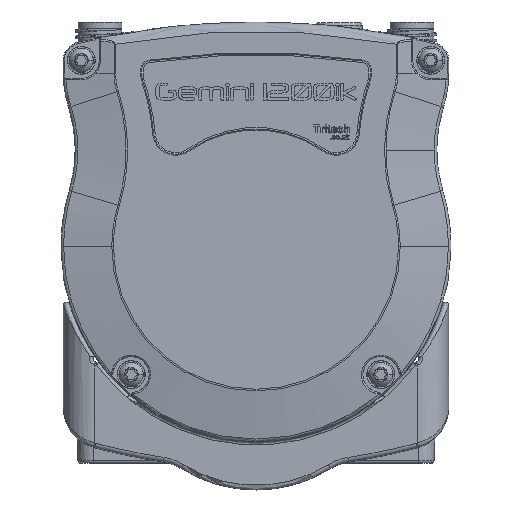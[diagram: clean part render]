
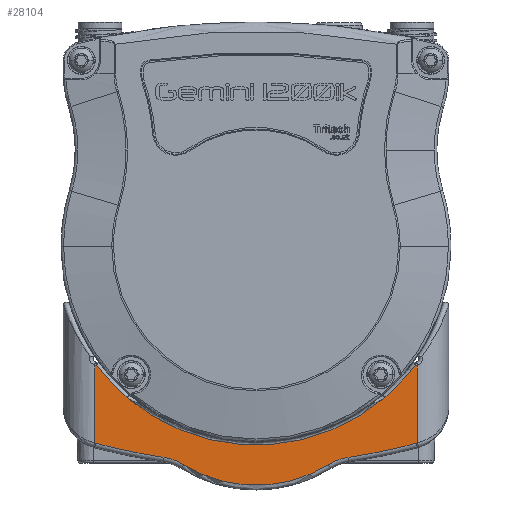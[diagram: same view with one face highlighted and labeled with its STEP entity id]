
A CAD part, front view. The second image highlights one B-rep face of the part: STEP entity #28104.
In plain terms, the highlighted planar face has unit normal (0, -1, 0).
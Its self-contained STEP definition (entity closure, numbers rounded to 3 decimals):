
#403 = VERTEX_POINT ( 'NONE', #96565 ) ;
#605 = VERTEX_POINT ( 'NONE', #44837 ) ;
#609 = AXIS2_PLACEMENT_3D ( 'NONE', #51575, #23339, #59500 ) ;
#2214 = AXIS2_PLACEMENT_3D ( 'NONE', #16228, #92576, #77783 ) ;
#2499 = CARTESIAN_POINT ( 'NONE',  ( -51.75, -23.4, -62.9 ) ) ;
#2911 = DIRECTION ( 'NONE',  ( 0., 0., 1. ) ) ;
#3374 = CARTESIAN_POINT ( 'NONE',  ( -51.362, -23.4, -63.011 ) ) ;
#3681 = EDGE_CURVE ( 'NONE', #84911, #11319, #27185, .T. ) ;
#4403 = CARTESIAN_POINT ( 'NONE',  ( 51.75, -23.4, -37.927 ) ) ;
#4878 = DIRECTION ( 'NONE',  ( 0., 0., 1. ) ) ;
#6494 = CARTESIAN_POINT ( 'NONE',  ( -51.75, -23.4, 0. ) ) ;
#7174 = EDGE_CURVE ( 'NONE', #403, #46893, #78999, .T. ) ;
#7264 = EDGE_CURVE ( 'NONE', #94870, #99454, #77176, .T. ) ;
#8331 = CARTESIAN_POINT ( 'NONE',  ( 23.223, -23.4, -69.872 ) ) ;
#9828 = CARTESIAN_POINT ( 'NONE',  ( -29.481, -23.4, -67.57 ) ) ;
#10886 = DIRECTION ( 'NONE',  ( 0., -1., 0. ) ) ;
#11169 = EDGE_CURVE ( 'NONE', #42819, #403, #66944, .T. ) ;
#11319 = VERTEX_POINT ( 'NONE', #110678 ) ;
#13501 = CARTESIAN_POINT ( 'NONE',  ( 41.297, -23.4, -48.369 ) ) ;
#14417 = CARTESIAN_POINT ( 'NONE',  ( 51.362, -23.4, -63.011 ) ) ;
#14434 = CARTESIAN_POINT ( 'NONE',  ( 48.259, -23.4, -51.429 ) ) ;
#16228 = CARTESIAN_POINT ( 'NONE',  ( 0., -23.4, 0. ) ) ;
#16722 = DIRECTION ( 'NONE',  ( -1., 0., 0. ) ) ;
#16939 = CIRCLE ( 'NONE', #40408, 198.5 ) ;
#17345 = VERTEX_POINT ( 'NONE', #107741 ) ;
#17853 = CARTESIAN_POINT ( 'NONE',  ( 0., -23.4, -38. ) ) ;
#18223 = CARTESIAN_POINT ( 'NONE',  ( -48.259, -23.4, -51.429 ) ) ;
#18472 = VERTEX_POINT ( 'NONE', #40007 ) ;
#19156 = EDGE_LOOP ( 'NONE', ( #67014, #93076, #74654, #64479, #108416, #106282, #58419, #64636, #51965, #88219, #75761, #41644, #42165, #49175, #66683, #48245 ) ) ;
#19442 = CARTESIAN_POINT ( 'NONE',  ( 0., -23.4, 128.729 ) ) ;
#20482 = EDGE_CURVE ( 'NONE', #46893, #50051, #58470, .T. ) ;
#20712 = EDGE_CURVE ( 'NONE', #18472, #84911, #16939, .T. ) ;
#21373 = DIRECTION ( 'NONE',  ( 0., 1., 0. ) ) ;
#21402 = CARTESIAN_POINT ( 'NONE',  ( 0., -23.4, 128.729 ) ) ;
#21836 = VERTEX_POINT ( 'NONE', #9828 ) ;
#22262 = VECTOR ( 'NONE', #28711, 1000. ) ;
#22502 = DIRECTION ( 'NONE',  ( 0., 0., 1. ) ) ;
#23213 = AXIS2_PLACEMENT_3D ( 'NONE', #75180, #49204, #101213 ) ;
#23339 = DIRECTION ( 'NONE',  ( 0., 1., 0. ) ) ;
#23523 = LINE ( 'NONE', #6494, #42941 ) ;
#23775 = VECTOR ( 'NONE', #37524, 1000. ) ;
#24206 = CARTESIAN_POINT ( 'NONE',  ( 51., -23.4, -38. ) ) ;
#25430 = CIRCLE ( 'NONE', #94077, 44. ) ;
#27185 = CIRCLE ( 'NONE', #108447, 11.991 ) ;
#28104 = ADVANCED_FACE ( 'NONE', ( #51276 ), #93719, .F. ) ;
#28711 = DIRECTION ( 'NONE',  ( -1., 0., 0. ) ) ;
#34646 = EDGE_CURVE ( 'NONE', #605, #94870, #71013, .T. ) ;
#34930 = VECTOR ( 'NONE', #16722, 1000. ) ;
#37185 = CARTESIAN_POINT ( 'NONE',  ( 0., -23.4, -38. ) ) ;
#37499 = CARTESIAN_POINT ( 'NONE',  ( 31.932, -23.4, -83.887 ) ) ;
#37524 = DIRECTION ( 'NONE',  ( 0., 0., 1. ) ) ;
#38040 = AXIS2_PLACEMENT_3D ( 'NONE', #54162, #72208, #64341 ) ;
#38171 = CIRCLE ( 'NONE', #110430, 11.991 ) ;
#38590 = AXIS2_PLACEMENT_3D ( 'NONE', #98843, #21373, #4878 ) ;
#39160 = DIRECTION ( 'NONE',  ( 0., 1., 0. ) ) ;
#40007 = CARTESIAN_POINT ( 'NONE',  ( 29.481, -23.4, -67.57 ) ) ;
#40408 = AXIS2_PLACEMENT_3D ( 'NONE', #21402, #73360, #22502 ) ;
#40793 = EDGE_CURVE ( 'NONE', #66992, #18472, #59643, .T. ) ;
#41299 = CIRCLE ( 'NONE', #23213, 16.5 ) ;
#41571 = AXIS2_PLACEMENT_3D ( 'NONE', #37499, #39160, #71922 ) ;
#41644 = ORIENTED_EDGE ( 'NONE', *, *, #3681, .T. ) ;
#41977 = EDGE_CURVE ( 'NONE', #43629, #61560, #38171, .T. ) ;
#42165 = ORIENTED_EDGE ( 'NONE', *, *, #108077, .T. ) ;
#42819 = VERTEX_POINT ( 'NONE', #4403 ) ;
#42941 = VECTOR ( 'NONE', #74932, 1000. ) ;
#43084 = CARTESIAN_POINT ( 'NONE',  ( -51.213, -23.4, -38. ) ) ;
#43429 = EDGE_CURVE ( 'NONE', #99454, #98216, #47649, .T. ) ;
#43629 = VERTEX_POINT ( 'NONE', #2499 ) ;
#44837 = CARTESIAN_POINT ( 'NONE',  ( -41.297, -23.4, -48.369 ) ) ;
#45447 = LINE ( 'NONE', #73058, #23775 ) ;
#46893 = VERTEX_POINT ( 'NONE', #24206 ) ;
#47649 = CIRCLE ( 'NONE', #38590, 2. ) ;
#48245 = ORIENTED_EDGE ( 'NONE', *, *, #20482, .T. ) ;
#48581 = DIRECTION ( 'NONE',  ( 0., 0., 1. ) ) ;
#49018 = AXIS2_PLACEMENT_3D ( 'NONE', #19442, #10886, #2911 ) ;
#49175 = ORIENTED_EDGE ( 'NONE', *, *, #11169, .T. ) ;
#49204 = DIRECTION ( 'NONE',  ( 0., 1., 0. ) ) ;
#50051 = VERTEX_POINT ( 'NONE', #13501 ) ;
#50100 = DIRECTION ( 'NONE',  ( 0., 0., 1. ) ) ;
#51276 = FACE_OUTER_BOUND ( 'NONE', #19156, .T. ) ;
#51575 = CARTESIAN_POINT ( 'NONE',  ( 0., -23.4, 0. ) ) ;
#51965 = ORIENTED_EDGE ( 'NONE', *, *, #79699, .T. ) ;
#52625 = CIRCLE ( 'NONE', #49018, 198.5 ) ;
#54162 = CARTESIAN_POINT ( 'NONE',  ( 51.213, -23.4, -36. ) ) ;
#56007 = EDGE_CURVE ( 'NONE', #21836, #17345, #41299, .T. ) ;
#58419 = ORIENTED_EDGE ( 'NONE', *, *, #108122, .T. ) ;
#58470 = CIRCLE ( 'NONE', #609, 63.6 ) ;
#58652 = DIRECTION ( 'NONE',  ( 0., 1., 0. ) ) ;
#59044 = CARTESIAN_POINT ( 'NONE',  ( 0., -23.4, 0. ) ) ;
#59500 = DIRECTION ( 'NONE',  ( 0., 0., 1. ) ) ;
#59643 = CIRCLE ( 'NONE', #41571, 16.5 ) ;
#59662 = DIRECTION ( 'NONE',  ( 0., -1., 0. ) ) ;
#61560 = VERTEX_POINT ( 'NONE', #3374 ) ;
#64341 = DIRECTION ( 'NONE',  ( 0., 0., 1. ) ) ;
#64479 = ORIENTED_EDGE ( 'NONE', *, *, #43429, .T. ) ;
#64636 = ORIENTED_EDGE ( 'NONE', *, *, #56007, .T. ) ;
#66683 = ORIENTED_EDGE ( 'NONE', *, *, #7174, .T. ) ;
#66944 = CIRCLE ( 'NONE', #38040, 2. ) ;
#66992 = VERTEX_POINT ( 'NONE', #8331 ) ;
#67014 = ORIENTED_EDGE ( 'NONE', *, *, #107316, .T. ) ;
#67407 = AXIS2_PLACEMENT_3D ( 'NONE', #84646, #58652, #110689 ) ;
#68639 = CIRCLE ( 'NONE', #83069, 63.6 ) ;
#71013 = CIRCLE ( 'NONE', #67407, 63.6 ) ;
#71922 = DIRECTION ( 'NONE',  ( 0., 0., 1. ) ) ;
#72208 = DIRECTION ( 'NONE',  ( 0., 1., 0. ) ) ;
#73058 = CARTESIAN_POINT ( 'NONE',  ( 51.75, -23.4, 0. ) ) ;
#73360 = DIRECTION ( 'NONE',  ( 0., -1., 0. ) ) ;
#74654 = ORIENTED_EDGE ( 'NONE', *, *, #7264, .T. ) ;
#74932 = DIRECTION ( 'NONE',  ( 0., 0., -1. ) ) ;
#75180 = CARTESIAN_POINT ( 'NONE',  ( -31.932, -23.4, -83.887 ) ) ;
#75354 = CARTESIAN_POINT ( 'NONE',  ( -51.75, -23.4, -37.927 ) ) ;
#75649 = DIRECTION ( 'NONE',  ( 0., -1., 0. ) ) ;
#75761 = ORIENTED_EDGE ( 'NONE', *, *, #20712, .T. ) ;
#77176 = LINE ( 'NONE', #17853, #34930 ) ;
#77783 = DIRECTION ( 'NONE',  ( 0., 0., 1. ) ) ;
#78130 = DIRECTION ( 'NONE',  ( 0., -1., 0. ) ) ;
#78999 = LINE ( 'NONE', #37185, #22262 ) ;
#79699 = EDGE_CURVE ( 'NONE', #17345, #66992, #25430, .T. ) ;
#83069 = AXIS2_PLACEMENT_3D ( 'NONE', #59044, #91312, #93575 ) ;
#84646 = CARTESIAN_POINT ( 'NONE',  ( 0., -23.4, 0. ) ) ;
#84911 = VERTEX_POINT ( 'NONE', #14417 ) ;
#88219 = ORIENTED_EDGE ( 'NONE', *, *, #40793, .T. ) ;
#88293 = DIRECTION ( 'NONE',  ( 0., 0., 1. ) ) ;
#91312 = DIRECTION ( 'NONE',  ( 0., 1., 0. ) ) ;
#91774 = CARTESIAN_POINT ( 'NONE',  ( -51., -23.4, -38. ) ) ;
#92576 = DIRECTION ( 'NONE',  ( 0., 1., 0. ) ) ;
#93076 = ORIENTED_EDGE ( 'NONE', *, *, #34646, .T. ) ;
#93575 = DIRECTION ( 'NONE',  ( 0., 0., 1. ) ) ;
#93719 = PLANE ( 'NONE',  #2214 ) ;
#94077 = AXIS2_PLACEMENT_3D ( 'NONE', #100024, #75649, #48581 ) ;
#94870 = VERTEX_POINT ( 'NONE', #91774 ) ;
#96565 = CARTESIAN_POINT ( 'NONE',  ( 51.213, -23.4, -38. ) ) ;
#98216 = VERTEX_POINT ( 'NONE', #75354 ) ;
#98843 = CARTESIAN_POINT ( 'NONE',  ( -51.213, -23.4, -36. ) ) ;
#99454 = VERTEX_POINT ( 'NONE', #43084 ) ;
#100024 = CARTESIAN_POINT ( 'NONE',  ( 0., -23.4, -32.5 ) ) ;
#101213 = DIRECTION ( 'NONE',  ( 0., 0., 1. ) ) ;
#103923 = EDGE_CURVE ( 'NONE', #98216, #43629, #23523, .T. ) ;
#106282 = ORIENTED_EDGE ( 'NONE', *, *, #41977, .T. ) ;
#107316 = EDGE_CURVE ( 'NONE', #50051, #605, #68639, .T. ) ;
#107741 = CARTESIAN_POINT ( 'NONE',  ( -23.223, -23.4, -69.872 ) ) ;
#108077 = EDGE_CURVE ( 'NONE', #11319, #42819, #45447, .T. ) ;
#108122 = EDGE_CURVE ( 'NONE', #61560, #21836, #52625, .T. ) ;
#108416 = ORIENTED_EDGE ( 'NONE', *, *, #103923, .T. ) ;
#108447 = AXIS2_PLACEMENT_3D ( 'NONE', #14434, #59662, #50100 ) ;
#110430 = AXIS2_PLACEMENT_3D ( 'NONE', #18223, #78130, #88293 ) ;
#110678 = CARTESIAN_POINT ( 'NONE',  ( 51.75, -23.4, -62.9 ) ) ;
#110689 = DIRECTION ( 'NONE',  ( 0., 0., 1. ) ) ;
